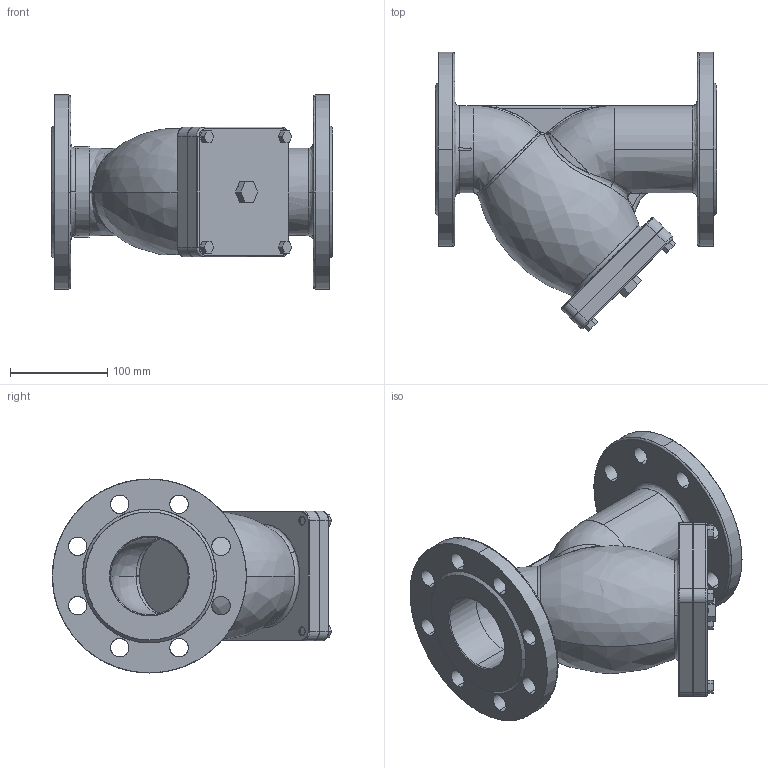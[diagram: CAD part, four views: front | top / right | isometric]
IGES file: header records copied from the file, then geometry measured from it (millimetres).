
Start section: SolidWorks IGES file using analytic representation for surfaces
Global section: file name: C:\Users\Administrator\Desktop\temp\F3240-DN80.IGS; native system: SolidWorks 2015; preprocessor: SolidWorks 2015; author: Administrator; date: 170423.150116; units: millimetre
Bounding box: 290 x 287.89 x 200 mm (x, y, z)
Surface area: 482074.6 mm2 (no closed solid volume)
Topology: 0 solids, 0 shells, 406 faces, 6312 edges, 6303 vertices
Faces by surface type: bspline 248, revolution 158
